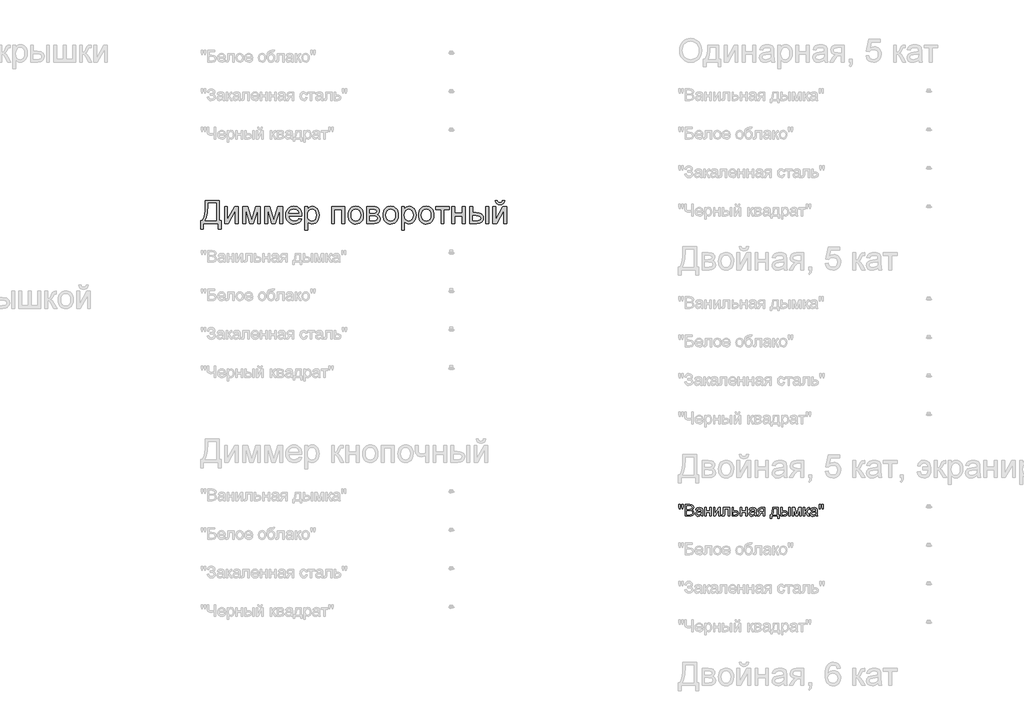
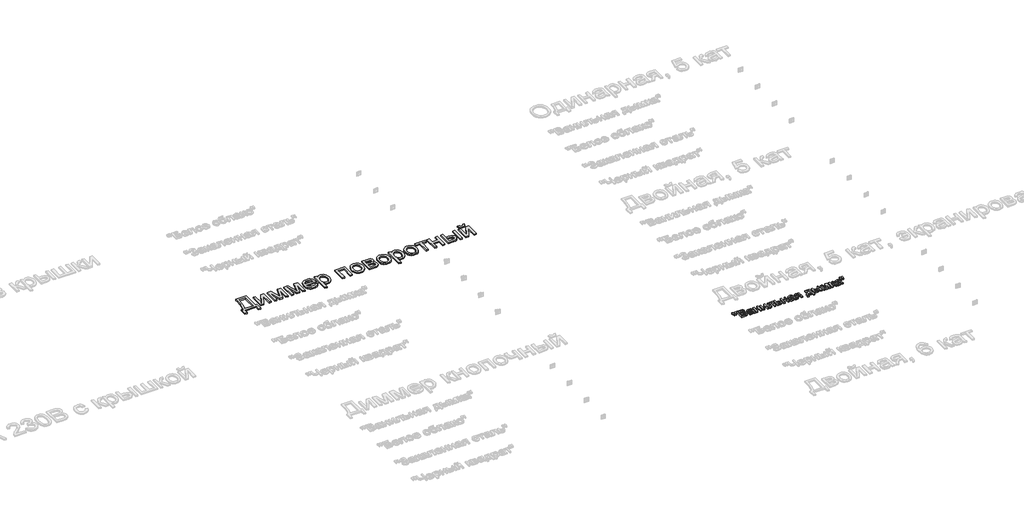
# One storey, part 159 of 168: 2 proxies.
"""IFC4 building model written with IfcOpenShell, lengths in millimetres."""

from ifc_helpers import new_model, si_unit, origin, origin_with_axes, place, context, project, spatial, polyline, outline, extrude, element, save

model = new_model("IFC4")

# Units and contexts
model_context = context("Model", 3, world=origin())
ifc_project = project(units=[si_unit("LENGTHUNIT", "METRE", prefix="MILLI")], contexts=[model_context])

# Site, building, storey
site = spatial("IfcSite", under=ifc_project)
building = spatial("IfcBuilding", under=site)
storey = spatial("IfcBuildingStorey", under=building, Name="Этаж 01", Elevation=0.0)

# Proxies
placement = place(None, origin())
element("IfcBuildingElementProxy", 1, Name="300 мм Arial 2", ObjectType="300 мм Arial 2", at=placement, inside=storey, context=model_context, shape_type="SweptSolid", body=[
    extrude(outline(polyline([(71127.3478389, -7847.0367511), (71306.2856413, -7847.0367511), (71306.2856413, -8110.7345653), (71334.5389786, -8110.7345653), (71334.5389786, -8219.0390246), (71296.8678623, -8219.0390246), (71296.8678623, -8148.4056816), (71103.8033912, -8148.4056816), (71103.8033912, -8219.0390246), (71066.1322749, -8219.0390246), (71066.1322749, -8110.7345653), (71089.6767226, -8110.7345653), (71106.157836, -8076.5629264), (71117.9300598, -8028.4945452), (71124.9933941, -7966.5294217), (71127.3478389, -7890.6675557), (71127.3478389, -7847.0367511)]), holes=[polyline([(71268.614525, -7884.7078674), (71165.0189552, -7884.7078674), (71165.0189552, -7899.8646056), (71157.3670097, -8003.0922935), (71146.0362442, -8062.744359), (71127.3478389, -8110.7345653), (71268.614525, -8110.7345653), (71268.614525, -7884.7078674)])]), origin_with_axes(), (0.0, 0.0, 1.0), 20.0),
    extrude(outline(polyline([(71376.9189844, -7927.0878733), (71414.5901007, -7927.0878733), (71414.5901007, -8095.8721327), (71507.1492107, -7927.0878733), (71555.8567869, -7927.0878733), (71555.8567869, -8148.4056816), (71518.1856706, -8148.4056816), (71518.1856706, -7980.6514918), (71426.2151718, -8148.4056816), (71376.9189844, -8148.4056816), (71376.9189844, -7927.0878733)])), origin_with_axes(), (0.0, 0.0, 1.0), 20.0),
    extrude(outline(polyline([(71612.3634613, -7927.0878733), (71677.1842689, -7927.0878733), (71727.1426438, -8104.2598421), (71781.0005679, -7927.0878733), (71843.0990487, -7927.0878733), (71843.0990487, -8148.4056816), (71805.4279324, -8148.4056816), (71805.4279324, -7970.2036431), (71751.2757027, -8148.4056816), (71701.8323626, -8148.4056816), (71650.0345776, -7961.6687808), (71650.0345776, -8148.4056816), (71612.3634613, -8148.4056816), (71612.3634613, -7927.0878733)])), origin_with_axes(), (0.0, 0.0, 1.0), 20.0),
    extrude(outline(polyline([(71899.6057232, -7927.0878733), (71964.4265307, -7927.0878733), (72014.3849057, -8104.2598421), (72068.2428298, -7927.0878733), (72130.3413105, -7927.0878733), (72130.3413105, -8148.4056816), (72092.6701942, -8148.4056816), (72092.6701942, -7970.2036431), (72038.5179645, -8148.4056816), (71989.0746244, -8148.4056816), (71937.2768395, -7961.6687808), (71937.2768395, -8148.4056816), (71899.6057232, -8148.4056816), (71899.6057232, -7927.0878733)])), origin_with_axes(), (0.0, 0.0, 1.0), 20.0),
    extrude(outline(polyline([(72341.7998814, -8082.481228), (72378.7352337, -8087.1901176), (72365.4271025, -8115.0203905), (72344.1911143, -8135.8241173), (72315.5055158, -8148.7919577), (72279.8485534, -8153.1145711), (72256.4742511, -8151.2498692), (72235.6475317, -8145.6557637), (72217.368395, -8136.3322543), (72201.6368412, -8123.2793413), (72188.9862991, -8106.860308), (72179.9501976, -8087.4384379), (72174.5285367, -8065.013731), (72172.7213164, -8039.5861874), (72174.5469308, -8013.2964203), (72180.023774, -7990.1244531), (72189.151846, -7970.0702859), (72201.9311468, -7953.1339185), (72217.6213139, -7939.6786346), (72235.4819848, -7930.0677174), (72255.5131594, -7924.3011672), (72277.7148378, -7922.3789837), (72299.2014456, -7924.2965686), (72318.6325127, -7930.0493233), (72336.0080392, -7939.6372478), (72351.328025, -7953.0603421), (72363.8337136, -7969.9599213), (72372.7663483, -7989.9773003), (72378.1259291, -8013.1124793), (72379.9124561, -8039.3654582), (72379.6917269, -8049.5190013), (72210.3924327, -8049.5190013), (72216.9131411, -8077.7171562), (72232.0606822, -8098.4473066), (72253.9220698, -8111.1944178), (72280.5843174, -8115.4434548), (72300.6338861, -8113.4752861), (72317.5196697, -8107.5707801), (72331.2416681, -8097.3620547), (72341.7998814, -8082.481228)]), holes=[polyline([(72210.3924327, -8011.847885), (72342.2413398, -8011.847885), (72337.1461741, -7991.945469), (72327.158178, -7977.7084358), (72305.1956228, -7964.464684), (72277.567685, -7960.0501), (72252.1746303, -7963.5725701), (72231.1777654, -7974.1399805), (72216.5820473, -7990.6118968), (72210.3924327, -8011.847885)])]), origin_with_axes(), (0.0, 0.0, 1.0), 20.0),
    extrude(outline(polyline([(72417.5835724, -8233.1656933), (72417.5835724, -7927.0878733), (72455.2546887, -7927.0878733), (72455.2546887, -7964.0232256), (72467.5419473, -7945.8038698), (72481.3007339, -7932.7900442), (72497.3403889, -7924.9817488), (72516.4702527, -7922.3789837), (72541.9460808, -7926.0210155), (72564.2213356, -7936.9471107), (72582.357918, -7954.4950819), (72595.4177288, -7978.0027414), (72603.3087976, -8005.7594379), (72605.9391539, -8036.0545202), (72602.9685068, -8068.271786), (72594.0565655, -8097.0861432), (72579.4884384, -8121.0352611), (72559.5492343, -8138.6568087), (72536.3266834, -8149.5001305), (72511.9085159, -8153.1145711), (72494.590471, -8150.695747), (72479.1302302, -8143.4392746), (72465.8956754, -8132.4855882), (72455.2546887, -8118.975122), (72455.2546887, -8233.1656933), (72417.5835724, -8233.1656933)]), holes=[polyline([(72455.2546887, -8039.512611), (72459.3289818, -8073.2841782), (72471.5518611, -8096.9022022), (72489.5872759, -8110.8081417), (72511.0991755, -8115.4434548), (72532.9605631, -8110.6425948), (72551.4558304, -8096.2400147), (72564.0649858, -8071.7574679), (72568.2680376, -8036.7167078), (72564.1661533, -8003.1290817), (72551.8605006, -7979.1799638), (72533.8526769, -7964.832566), (72512.6442799, -7960.0501), (72491.3531095, -7965.1360686), (72472.655507, -7980.3939744), (72459.6048933, -8005.3455707), (72455.2546887, -8039.512611)])]), origin_with_axes(), (0.0, 0.0, 1.0), 20.0),
    extrude(outline(polyline([(72766.0413982, -7927.0878733), (72935.5614216, -7927.0878733), (72935.5614216, -8148.4056816), (72897.8903053, -8148.4056816), (72897.8903053, -7964.7589896), (72803.7125145, -7964.7589896), (72803.7125145, -8148.4056816), (72766.0413982, -8148.4056816), (72766.0413982, -7927.0878733)])), origin_with_axes(), (0.0, 0.0, 1.0), 20.0),
    extrude(outline(polyline([(72982.650317, -8037.7467774), (72984.6874635, -8009.0841715), (72990.7989032, -7984.385494), (73000.9846359, -7963.6507451), (73015.2446617, -7946.8799246), (73029.6012566, -7936.160763), (73045.4477735, -7928.504219), (73062.7842126, -7923.9102925), (73081.6105737, -7922.3789837), (73102.3936071, -7924.2436856), (73121.1854793, -7929.8377912), (73137.9861902, -7939.1613005), (73152.7957397, -7952.2142135), (73164.8829625, -7968.5550719), (73173.5166931, -7987.7424172), (73178.6969315, -8009.7762495), (73180.4236776, -8034.6565687), (73177.370257, -8072.7139611), (73168.2099953, -8101.6846682), (73153.209607, -8123.3805088), (73132.6358064, -8139.6133019), (73108.1992449, -8149.7392538), (73081.6105737, -8153.1145711), (73060.5240376, -8151.256767), (73041.5574214, -8145.6833548), (73024.7107253, -8136.3943344), (73009.9839492, -8123.3897059), (72998.0254851, -8106.8901984), (72989.483725, -8087.1165412), (72984.358669, -8064.0687342), (72982.650317, -8037.7467774)]), holes=[polyline([(73020.3214333, -8037.673201), (73024.6808349, -8071.7666649), (73037.7590398, -8096.0560737), (73057.4407266, -8110.5966095), (73081.6105737, -8115.4434548), (73105.6700562, -8110.5690184), (73125.3149547, -8095.9457091), (73138.3931596, -8071.3344036), (73142.7525613, -8036.4959786), (73138.3655685, -8003.3957961), (73125.2045901, -7979.4374812), (73105.5321004, -7964.8969453), (73081.6105737, -7960.0501), (73057.4407266, -7964.8785512), (73037.7590398, -7979.3639048), (73024.6808349, -8003.5981312), (73020.3214333, -8037.673201)])]), origin_with_axes(), (0.0, 0.0, 1.0), 20.0),
    extrude(outline(polyline([(73222.8036834, -7927.0878733), (73305.7978615, -7927.0878733), (73332.4785032, -7928.3478691), (73351.3048643, -7932.1278566), (73365.1556214, -7939.2647673), (73376.9094512, -7950.5955328), (73384.9384757, -7965.3567978), (73387.6148173, -7982.7852073), (73385.9961365, -7996.8291025), (73381.1400941, -8008.9416172), (73373.0282961, -8019.1779337), (73361.6423484, -8027.5932344), (73375.585076, -8035.4199238), (73386.9526297, -8048.0106851), (73394.5126047, -8064.3722368), (73397.0325963, -8083.5112976), (73390.6498437, -8112.2244873), (73375.4747114, -8132.439603), (73351.4520171, -8144.4141619), (73318.5265786, -8148.4056816), (73222.8036834, -8148.4056816), (73222.8036834, -7927.0878733)]), holes=[polyline([(73260.4747997, -8011.847885), (73297.7044576, -8011.847885), (73328.4226042, -8009.9348986), (73343.3586132, -8002.2829531), (73348.297429, -7995.9553828), (73349.9437009, -7988.4505901), (73347.0558273, -7977.2117951), (73338.3922063, -7969.9829139), (73322.7388274, -7966.0649707), (73298.88168, -7964.7589896), (73260.4747997, -7964.7589896), (73260.4747997, -8011.847885)]), polyline([(73260.4747997, -8110.7345653), (73306.6807783, -8110.7345653), (73331.8623009, -8109.033111), (73347.6628326, -8103.9287484), (73356.1425126, -8094.648925), (73359.36148, -8080.4210889), (73357.7519963, -8070.9941127), (73352.9235451, -8062.2845065), (73345.5107229, -8055.4694925), (73336.1481261, -8051.7262932), (73303.0019584, -8049.5190013), (73260.4747997, -8049.5190013), (73260.4747997, -8110.7345653)])]), origin_with_axes(), (0.0, 0.0, 1.0), 20.0),
    extrude(outline(polyline([(73434.7037126, -8037.7467774), (73436.7408592, -8009.0841715), (73442.8522988, -7984.385494), (73453.0380316, -7963.6507451), (73467.2980574, -7946.8799246), (73481.6546523, -7936.160763), (73497.5011692, -7928.504219), (73514.8376082, -7923.9102925), (73533.6639693, -7922.3789837), (73554.4470028, -7924.2436856), (73573.238875, -7929.8377912), (73590.0395858, -7939.1613005), (73604.8491354, -7952.2142135), (73616.9363582, -7968.5550719), (73625.5700888, -7987.7424172), (73630.7503271, -8009.7762495), (73632.4770732, -8034.6565687), (73629.4236527, -8072.7139611), (73620.263391, -8101.6846682), (73605.2630027, -8123.3805088), (73584.6892021, -8139.6133019), (73560.2526405, -8149.7392538), (73533.6639693, -8153.1145711), (73512.5774332, -8151.256767), (73493.6108171, -8145.6833548), (73476.764121, -8136.3943344), (73462.0373449, -8123.3897059), (73450.0788808, -8106.8901984), (73441.5371207, -8087.1165412), (73436.4120647, -8064.0687342), (73434.7037126, -8037.7467774)]), holes=[polyline([(73472.3748289, -8037.673201), (73476.7342306, -8071.7666649), (73489.8124355, -8096.0560737), (73509.4941223, -8110.5966095), (73533.6639693, -8115.4434548), (73557.7234518, -8110.5690184), (73577.3683504, -8095.9457091), (73590.4465553, -8071.3344036), (73594.8059569, -8036.4959786), (73590.4189641, -8003.3957961), (73577.2579858, -7979.4374812), (73557.5854961, -7964.8969453), (73533.6639693, -7960.0501), (73509.4941223, -7964.8785512), (73489.8124355, -7979.3639048), (73476.7342306, -8003.5981312), (73472.3748289, -8037.673201)])]), origin_with_axes(), (0.0, 0.0, 1.0), 20.0),
    extrude(outline(polyline([(73674.8570791, -8233.1656933), (73674.8570791, -7927.0878733), (73712.5281954, -7927.0878733), (73712.5281954, -7964.0232256), (73724.815454, -7945.8038698), (73738.5742407, -7932.7900442), (73754.6138956, -7924.9817488), (73773.7437594, -7922.3789837), (73799.2195876, -7926.0210155), (73821.4948424, -7936.9471107), (73839.6314247, -7954.4950819), (73852.6912356, -7978.0027414), (73860.5823044, -8005.7594379), (73863.2126606, -8036.0545202), (73860.2420135, -8068.271786), (73851.3300722, -8097.0861432), (73836.7619452, -8121.0352611), (73816.822741, -8138.6568087), (73793.6001901, -8149.5001305), (73769.1820227, -8153.1145711), (73751.8639777, -8150.695747), (73736.4037369, -8143.4392746), (73723.1691821, -8132.4855882), (73712.5281954, -8118.975122), (73712.5281954, -8233.1656933), (73674.8570791, -8233.1656933)]), holes=[polyline([(73712.5281954, -8039.512611), (73716.6024885, -8073.2841782), (73728.8253678, -8096.9022022), (73746.8607826, -8110.8081417), (73768.3726823, -8115.4434548), (73790.2340698, -8110.6425948), (73808.7293371, -8096.2400147), (73821.3384925, -8071.7574679), (73825.5415443, -8036.7167078), (73821.4396601, -8003.1290817), (73809.1340073, -7979.1799638), (73791.1261837, -7964.832566), (73769.9177866, -7960.0501), (73748.6266162, -7965.1360686), (73729.9290138, -7980.3939744), (73716.8784, -8005.3455707), (73712.5281954, -8039.512611)])]), origin_with_axes(), (0.0, 0.0, 1.0), 20.0),
    extrude(outline(polyline([(73896.1748874, -8037.7467774), (73898.2120339, -8009.0841715), (73904.3234736, -7984.385494), (73914.5092063, -7963.6507451), (73928.7692322, -7946.8799246), (73943.125827, -7936.160763), (73958.972344, -7928.504219), (73976.308783, -7923.9102925), (73995.1351441, -7922.3789837), (74015.9181776, -7924.2436856), (74034.7100497, -7929.8377912), (74051.5107606, -7939.1613005), (74066.3203102, -7952.2142135), (74078.407533, -7968.5550719), (74087.0412635, -7987.7424172), (74092.2215019, -8009.7762495), (74093.948248, -8034.6565687), (74090.8948274, -8072.7139611), (74081.7345658, -8101.6846682), (74066.7341774, -8123.3805088), (74046.1603768, -8139.6133019), (74021.7238153, -8149.7392538), (73995.1351441, -8153.1145711), (73974.048608, -8151.256767), (73955.0819919, -8145.6833548), (73938.2352957, -8136.3943344), (73923.5085196, -8123.3897059), (73911.5500555, -8106.8901984), (73903.0082954, -8087.1165412), (73897.8832394, -8064.0687342), (73896.1748874, -8037.7467774)]), holes=[polyline([(73933.8460037, -8037.673201), (73938.2054053, -8071.7666649), (73951.2836103, -8096.0560737), (73970.965297, -8110.5966095), (73995.1351441, -8115.4434548), (74019.1946266, -8110.5690184), (74038.8395251, -8095.9457091), (74051.91773, -8071.3344036), (74056.2771317, -8036.4959786), (74051.8901389, -8003.3957961), (74038.7291605, -7979.4374812), (74019.0566708, -7964.8969453), (73995.1351441, -7960.0501), (73970.965297, -7964.8785512), (73951.2836103, -7979.3639048), (73938.2054053, -8003.5981312), (73933.8460037, -8037.673201)])]), origin_with_axes(), (0.0, 0.0, 1.0), 20.0),
    extrude(outline(polyline([(74117.4926957, -7927.0878733), (74296.4304981, -7927.0878733), (74296.4304981, -7964.7589896), (74225.7971551, -7964.7589896), (74225.7971551, -8148.4056816), (74188.1260388, -8148.4056816), (74188.1260388, -7964.7589896), (74117.4926957, -7964.7589896), (74117.4926957, -7927.0878733)])), origin_with_axes(), (0.0, 0.0, 1.0), 20.0),
    extrude(outline(polyline([(74329.3927249, -7927.0878733), (74367.0638412, -7927.0878733), (74367.0638412, -8011.847885), (74465.9505215, -8011.847885), (74465.9505215, -7927.0878733), (74503.6216378, -7927.0878733), (74503.6216378, -8148.4056816), (74465.9505215, -8148.4056816), (74465.9505215, -8049.5190013), (74367.0638412, -8049.5190013), (74367.0638412, -8148.4056816), (74329.3927249, -8148.4056816), (74329.3927249, -7927.0878733)])), origin_with_axes(), (0.0, 0.0, 1.0), 20.0),
    extrude(outline(polyline([(74767.319452, -7927.0878733), (74804.9905683, -7927.0878733), (74804.9905683, -8148.4056816), (74767.319452, -8148.4056816), (74767.319452, -7927.0878733)])), origin_with_axes(), (0.0, 0.0, 1.0), 20.0),
    extrude(outline(polyline([(74560.1283123, -7927.0878733), (74597.7994286, -7927.0878733), (74597.7994286, -8007.1389954), (74644.3732892, -8007.1389954), (74684.6287765, -8011.857082), (74700.8454747, -8017.7546902), (74714.4548093, -8026.0113418), (74725.2222554, -8036.3419281), (74732.9132884, -8048.4613405), (74737.5279081, -8062.3695792), (74739.0661147, -8078.0666441), (74733.9065698, -8105.0231973), (74718.4279348, -8127.7675016), (74706.5660397, -8136.7967054), (74691.6185344, -8143.2461366), (74652.4666931, -8148.4056816), (74560.1283123, -8148.4056816), (74560.1283123, -7927.0878733)]), holes=[polyline([(74597.7994286, -8110.7345653), (74636.5006145, -8110.7345653), (74666.5013912, -8108.7571995), (74686.4589894, -8102.8251024), (74697.6609962, -8092.6991504), (74701.3949984, -8078.1402205), (74698.6266864, -8065.8345678), (74690.3217504, -8054.9636548), (74672.5622471, -8047.3484975), (74641.4302332, -8044.8101117), (74597.7994286, -8044.8101117), (74597.7994286, -8110.7345653)])]), origin_with_axes(), (0.0, 0.0, 1.0), 20.0),
    extrude(outline(polyline([(74861.4972427, -7927.0878733), (74899.168359, -7927.0878733), (74899.168359, -8095.8721327), (74991.727469, -7927.0878733), (75040.4350452, -7927.0878733), (75040.4350452, -8148.4056816), (75002.7639289, -8148.4056816), (75002.7639289, -7980.6514918), (74910.7934301, -8148.4056816), (74861.4972427, -8148.4056816), (74861.4972427, -7927.0878733)])), origin_with_axes(), (0.0, 0.0, 1.0), 20.0),
    extrude(outline(polyline([(74983.9283707, -7847.0367511), (75012.181708, -7847.0367511), (75006.102458, -7871.160613), (74993.8979728, -7888.9385104), (74976.1200754, -7899.8921968), (74953.3205887, -7903.5434256), (74928.5805246, -7899.9197879), (74909.3954785, -7889.048875), (74896.2804854, -7871.2985687), (74889.75058, -7847.0367511), (74918.0039172, -7847.0367511), (74921.9770427, -7859.4435714), (74928.5989187, -7868.2635422), (74937.9063331, -7873.5334518), (74949.9360744, -7875.2900883), (74963.51092, -7873.5886341), (74973.3333693, -7868.4842714), (74979.9552452, -7859.7194829), (74983.9283707, -7847.0367511)])), origin_with_axes(), (0.0, 0.0, 1.0), 20.0),
])
element("IfcBuildingElementProxy", 2, Name="150", ObjectType="150", at=placement, inside=storey, context=model_context, shape_type="SweptSolid", body=[
    extrude(outline(polyline([(77280.1485789, -11851.873446), (77275.550054, -11822.7739802), (77275.550054, -11797.7212163), (77294.3856121, -11797.7212163), (77294.3856121, -11822.7739802), (77290.2653338, -11851.873446), (77280.1485789, -11851.873446)])), origin_with_axes(), (0.0, 0.0, 1.0), 20.0),
    extrude(outline(polyline([(77317.7093306, -11851.873446), (77313.2211703, -11822.7739802), (77313.2211703, -11797.7212163), (77332.0567284, -11797.7212163), (77332.0567284, -11822.7739802), (77327.6421445, -11851.873446), (77317.7093306, -11851.873446)])), origin_with_axes(), (0.0, 0.0, 1.0), 20.0),
    extrude(outline(polyline([(77357.9556209, -11948.4056816), (77357.9556209, -11797.7212163), (77415.4555767, -11797.7212163), (77443.6169435, -11802.1541944), (77453.0807078, -11807.7781904), (77460.2452096, -11815.7842223), (77466.2600803, -11835.0612389), (77461.2017028, -11852.6643923), (77445.9162059, -11866.0001146), (77456.5893823, -11871.5735269), (77464.4758526, -11880.0532069), (77469.3456905, -11890.8781346), (77470.9689698, -11903.48729), (77466.5359918, -11923.7391938), (77455.5547142, -11938.160168), (77439.1655713, -11945.8121135), (77415.0141183, -11948.4056816), (77357.9556209, -11948.4056816)]), holes=[polyline([(77376.791179, -11858.9367803), (77411.1881456, -11858.9367803), (77431.2745025, -11857.3180996), (77443.3594261, -11850.3467358), (77447.4245221, -11838.0778712), (77443.6353376, -11825.7906126), (77432.7828187, -11818.5249432), (77408.5761834, -11816.5567745), (77376.791179, -11816.5567745), (77376.791179, -11858.9367803)]), polyline([(77376.791179, -11929.5701234), (77415.4187885, -11929.5701234), (77429.3983043, -11928.8343594), (77441.2257105, -11924.7324752), (77449.061597, -11916.3631598), (77452.1334117, -11903.671231), (77448.5281681, -11889.0295275), (77436.8479148, -11880.2923302), (77413.5793786, -11877.7723385), (77376.791179, -11877.7723385), (77376.791179, -11929.5701234)])]), origin_with_axes(), (0.0, 0.0, 1.0), 20.0),
    extrude(outline(polyline([(77565.1467606, -11934.279013), (77546.8814195, -11947.0445182), (77526.7030921, -11950.7601263), (77510.9623412, -11948.5252432), (77499.3510657, -11941.8205939), (77492.1911624, -11931.6394596), (77489.804528, -11918.975122), (77493.4097715, -11904.0759012), (77502.8827329, -11893.2601705), (77516.0713024, -11887.079753), (77532.3684748, -11884.2470616), (77565.036396, -11877.7723385), (77565.1467606, -11873.5784838), (77563.8499765, -11865.1723802), (77559.9596244, -11859.6725443), (77551.2592153, -11855.5890542), (77539.1375035, -11854.2278908), (77520.0812162, -11857.8515285), (77510.9945309, -11870.7090042), (77492.1589727, -11868.3545594), (77500.3075589, -11849.9604597), (77516.7150959, -11839.1815172), (77541.5655247, -11835.3923327), (77564.3926025, -11838.7400588), (77577.2868664, -11847.1461624), (77583.0626137, -11859.9300617), (77583.9823187, -11876.4111751), (77583.9823187, -11899.8452582), (77584.9388119, -11932.5683617), (77588.6912083, -11948.4056816), (77569.8556501, -11948.4056816), (77565.1467606, -11934.279013)]), holes=[polyline([(77565.1467606, -11896.6078966), (77534.7597078, -11902.383644), (77518.5545059, -11905.4370645), (77511.2152601, -11910.4034715), (77508.6400861, -11917.6507468), (77514.2502865, -11927.841078), (77530.7130058, -11931.9245682), (77549.7692932, -11927.4180137), (77562.0565518, -11916.5103126), (77565.036396, -11901.9421856), (77565.1467606, -11896.6078966)])]), origin_with_axes(), (0.0, 0.0, 1.0), 20.0),
    extrude(outline(polyline([(77609.8812112, -11837.7467774), (77628.7167693, -11837.7467774), (77628.7167693, -11880.1267833), (77678.1601095, -11880.1267833), (77678.1601095, -11837.7467774), (77696.9956676, -11837.7467774), (77696.9956676, -11948.4056816), (77678.1601095, -11948.4056816), (77678.1601095, -11898.9623414), (77628.7167693, -11898.9623414), (77628.7167693, -11948.4056816), (77609.8812112, -11948.4056816), (77609.8812112, -11837.7467774)])), origin_with_axes(), (0.0, 0.0, 1.0), 20.0),
    extrude(outline(polyline([(77725.2490049, -11837.7467774), (77744.084563, -11837.7467774), (77744.084563, -11922.1389071), (77790.364118, -11837.7467774), (77814.7179061, -11837.7467774), (77814.7179061, -11948.4056816), (77795.8823479, -11948.4056816), (77795.8823479, -11864.5285867), (77749.8970985, -11948.4056816), (77725.2490049, -11948.4056816), (77725.2490049, -11837.7467774)])), origin_with_axes(), (0.0, 0.0, 1.0), 20.0),
    extrude(outline(polyline([(77852.3890224, -11837.7467774), (77937.1490341, -11837.7467774), (77937.1490341, -11948.295317), (77918.3134759, -11948.295317), (77918.3134759, -11856.5823356), (77871.2245806, -11856.5823356), (77871.2245806, -11909.3734019), (77869.9553877, -11933.72719), (77862.9840239, -11944.0094917), (77846.5029105, -11948.4056816), (77831.1990195, -11947.4491884), (77831.1990195, -11929.5701234), (77839.6235172, -11929.5701234), (77848.1399854, -11928.4112951), (77851.5428938, -11924.7324752), (77852.3890224, -11908.3065441), (77852.3890224, -11837.7467774)])), origin_with_axes(), (0.0, 0.0, 1.0), 20.0),
    extrude(outline(polyline([(77965.4023713, -11837.7467774), (77984.2379295, -11837.7467774), (77984.2379295, -11877.7723385), (78005.9429672, -11877.7723385), (78024.7601312, -11880.1313818), (78038.6844648, -11887.2085117), (78047.2929034, -11898.433511), (78050.162383, -11913.2361628), (78047.7205663, -11926.7144394), (78040.395116, -11938.0865916), (78027.6985887, -11945.8259091), (78009.1435405, -11948.4056816), (77965.4023713, -11948.4056816), (77965.4023713, -11837.7467774)]), holes=[polyline([(77984.2379295, -11929.5701234), (78001.8226888, -11929.5701234), (78024.539402, -11925.615392), (78029.6299692, -11920.552416), (78031.3268249, -11913.272951), (78026.3052356, -11901.6846682), (78018.2348244, -11897.8770895), (78004.066769, -11896.6078966), (77984.2379295, -11896.6078966), (77984.2379295, -11929.5701234)])]), origin_with_axes(), (0.0, 0.0, 1.0), 20.0),
    extrude(outline(polyline([(78073.7068307, -11837.7467774), (78092.5423889, -11837.7467774), (78092.5423889, -11880.1267833), (78141.985729, -11880.1267833), (78141.985729, -11837.7467774), (78160.8212872, -11837.7467774), (78160.8212872, -11948.4056816), (78141.985729, -11948.4056816), (78141.985729, -11898.9623414), (78092.5423889, -11898.9623414), (78092.5423889, -11948.4056816), (78073.7068307, -11948.4056816), (78073.7068307, -11837.7467774)])), origin_with_axes(), (0.0, 0.0, 1.0), 20.0),
    extrude(outline(polyline([(78259.7079675, -11934.279013), (78241.4426264, -11947.0445182), (78221.264299, -11950.7601263), (78205.5235481, -11948.5252432), (78193.9122726, -11941.8205939), (78186.7523693, -11931.6394596), (78184.3657349, -11918.975122), (78187.9709784, -11904.0759012), (78197.4439398, -11893.2601705), (78210.6325093, -11887.079753), (78226.9296817, -11884.2470616), (78259.5976029, -11877.7723385), (78259.7079675, -11873.5784838), (78258.4111834, -11865.1723802), (78254.5208313, -11859.6725443), (78245.8204221, -11855.5890542), (78233.6987104, -11854.2278908), (78214.6424231, -11857.8515285), (78205.5557378, -11870.7090042), (78186.7201796, -11868.3545594), (78194.8687658, -11849.9604597), (78211.2763028, -11839.1815172), (78236.1267316, -11835.3923327), (78258.9538094, -11838.7400588), (78271.8480733, -11847.1461624), (78277.6238206, -11859.9300617), (78278.5435256, -11876.4111751), (78278.5435256, -11899.8452582), (78279.5000188, -11932.5683617), (78283.2524152, -11948.4056816), (78264.416857, -11948.4056816), (78259.7079675, -11934.279013)]), holes=[polyline([(78259.7079675, -11896.6078966), (78229.3209147, -11902.383644), (78213.1157128, -11905.4370645), (78205.776467, -11910.4034715), (78203.201293, -11917.6507468), (78208.8114934, -11927.841078), (78225.2742127, -11931.9245682), (78244.3305001, -11927.4180137), (78256.6177587, -11916.5103126), (78259.5976029, -11901.9421856), (78259.7079675, -11896.6078966)])]), origin_with_axes(), (0.0, 0.0, 1.0), 20.0),
    extrude(outline(polyline([(78389.2024298, -11837.7467774), (78389.2024298, -11948.4056816), (78370.3668716, -11948.4056816), (78370.3668716, -11906.0256757), (78360.1029639, -11906.0256757), (78346.1234481, -11908.4169087), (78332.9900609, -11924.4933519), (78317.9804755, -11948.4056816), (78296.2018614, -11948.4056816), (78315.1109959, -11918.1657816), (78323.4619172, -11907.3132627), (78331.1506509, -11902.4940086), (78318.2747811, -11898.5484742), (78309.224884, -11891.0528785), (78303.872201, -11881.0832765), (78302.0879733, -11869.7157228), (78304.5251915, -11856.8214589), (78311.8368462, -11846.6127335), (78323.7654199, -11839.9632664), (78340.0533952, -11837.7467774), (78389.2024298, -11837.7467774)]), holes=[polyline([(78370.3668716, -11856.5823356), (78345.5348369, -11856.5823356), (78332.7095509, -11857.672186), (78325.4300859, -11860.9417372), (78320.9235315, -11871.1504626), (78322.583599, -11878.32876), (78327.5638015, -11883.3089625), (78351.0898551, -11887.1901176), (78370.3668716, -11887.1901176), (78370.3668716, -11856.5823356)])]), origin_with_axes(), (0.0, 0.0, 1.0), 20.0),
    extrude(outline(polyline([(78492.7979996, -11837.7467774), (78563.4313427, -11837.7467774), (78563.4313427, -11929.5701234), (78577.5580113, -11929.5701234), (78577.5580113, -11979.0134636), (78558.7224531, -11979.0134636), (78558.7224531, -11948.4056816), (78481.0257758, -11948.4056816), (78481.0257758, -11979.0134636), (78462.1902176, -11979.0134636), (78462.1902176, -11929.5701234), (78473.9624415, -11929.5701234), (78482.5202964, -11914.105284), (78488.5121744, -11893.6464466), (78492.7979996, -11837.7467774)]), holes=[polyline([(78509.279113, -11856.5823356), (78504.864529, -11899.4957703), (78495.1524444, -11929.5701234), (78544.5957845, -11929.5701234), (78544.5957845, -11856.5823356), (78509.279113, -11856.5823356)])]), origin_with_axes(), (0.0, 0.0, 1.0), 20.0),
    extrude(outline(polyline([(78702.3435841, -11837.7467774), (78721.1791422, -11837.7467774), (78721.1791422, -11948.4056816), (78702.3435841, -11948.4056816), (78702.3435841, -11837.7467774)])), origin_with_axes(), (0.0, 0.0, 1.0), 20.0),
    extrude(outline(polyline([(78598.7480142, -11837.7467774), (78617.5835724, -11837.7467774), (78617.5835724, -11877.7723385), (78640.8705027, -11877.7723385), (78660.9982463, -11880.1313818), (78675.9112627, -11887.2085117), (78685.1405023, -11898.433511), (78688.2169154, -11913.2361628), (78685.637143, -11926.7144394), (78677.8978255, -11938.0865916), (78664.4931253, -11945.8259091), (78644.9172046, -11948.4056816), (78598.7480142, -11948.4056816), (78598.7480142, -11837.7467774)]), holes=[polyline([(78617.5835724, -11929.5701234), (78636.9341653, -11929.5701234), (78661.9133528, -11925.615392), (78667.5143562, -11920.552416), (78669.3813573, -11913.272951), (78663.8447333, -11901.6846682), (78654.9649816, -11897.8770895), (78639.3989747, -11896.6078966), (78617.5835724, -11896.6078966), (78617.5835724, -11929.5701234)])]), origin_with_axes(), (0.0, 0.0, 1.0), 20.0),
    extrude(outline(polyline([(78749.4324794, -11837.7467774), (78781.8428832, -11837.7467774), (78806.8220707, -11926.3327619), (78833.7510327, -11837.7467774), (78864.8002731, -11837.7467774), (78864.8002731, -11948.4056816), (78845.964715, -11948.4056816), (78845.964715, -11859.3046623), (78818.8886001, -11948.4056816), (78794.1669301, -11948.4056816), (78768.2680376, -11855.0372312), (78768.2680376, -11948.4056816), (78749.4324794, -11948.4056816), (78749.4324794, -11837.7467774)])), origin_with_axes(), (0.0, 0.0, 1.0), 20.0),
    extrude(outline(polyline([(78893.0536104, -11837.7467774), (78911.8891685, -11837.7467774), (78911.8891685, -11884.8356728), (78924.5075209, -11881.4511584), (78934.845005, -11861.7326835), (78943.4350496, -11844.7181412), (78951.0134187, -11839.1815172), (78964.7905994, -11837.7467774), (78968.395843, -11837.7467774), (78968.395843, -11856.6927002), (78963.3190714, -11856.5823356), (78954.1220216, -11858.5688983), (78947.6472984, -11870.9665216), (78940.0505352, -11884.3758203), (78929.4003515, -11890.9425139), (78941.2829399, -11898.2725627), (78952.9447992, -11913.7144094), (78973.1047325, -11948.4056816), (78951.6940004, -11948.4056816), (78931.9387373, -11914.4501734), (78922.0059234, -11900.0843815), (78911.8891685, -11896.6078966), (78911.8891685, -11948.4056816), (78893.0536104, -11948.4056816), (78893.0536104, -11837.7467774)])), origin_with_axes(), (0.0, 0.0, 1.0), 20.0),
    extrude(outline(polyline([(79055.5102994, -11934.279013), (79037.2449584, -11947.0445182), (79017.0666309, -11950.7601263), (79001.3258801, -11948.5252432), (78989.7146046, -11941.8205939), (78982.5547013, -11931.6394596), (78980.1680668, -11918.975122), (78983.7733104, -11904.0759012), (78993.2462717, -11893.2601705), (79006.4348413, -11887.079753), (79022.7320137, -11884.2470616), (79055.3999348, -11877.7723385), (79055.5102994, -11873.5784838), (79054.2135154, -11865.1723802), (79050.3231633, -11859.6725443), (79041.6227541, -11855.5890542), (79029.5010424, -11854.2278908), (79010.444755, -11857.8515285), (79001.3580697, -11870.7090042), (78982.5225116, -11868.3545594), (78990.6710978, -11849.9604597), (79007.0786348, -11839.1815172), (79031.9290635, -11835.3923327), (79054.7561413, -11838.7400588), (79067.6504053, -11847.1461624), (79073.4261526, -11859.9300617), (79074.3458576, -11876.4111751), (79074.3458576, -11899.8452582), (79075.3023508, -11932.5683617), (79079.0547471, -11948.4056816), (79060.219189, -11948.4056816), (79055.5102994, -11934.279013)]), holes=[polyline([(79055.5102994, -11896.6078966), (79025.1232466, -11902.383644), (79008.9180447, -11905.4370645), (79001.5787989, -11910.4034715), (78999.003625, -11917.6507468), (79004.6138254, -11927.841078), (79021.0765447, -11931.9245682), (79040.132832, -11927.4180137), (79052.4200907, -11916.5103126), (79055.3999348, -11901.9421856), (79055.5102994, -11896.6078966)])]), origin_with_axes(), (0.0, 0.0, 1.0), 20.0),
    extrude(outline(polyline([(79100.1343854, -11851.873446), (79095.5358605, -11822.7739802), (79095.5358605, -11797.7212163), (79114.3714187, -11797.7212163), (79114.3714187, -11822.7739802), (79110.2511403, -11851.873446), (79100.1343854, -11851.873446)])), origin_with_axes(), (0.0, 0.0, 1.0), 20.0),
    extrude(outline(polyline([(79137.6951372, -11851.873446), (79133.2069768, -11822.7739802), (79133.2069768, -11797.7212163), (79152.042535, -11797.7212163), (79152.042535, -11822.7739802), (79147.627951, -11851.873446), (79137.6951372, -11851.873446)])), origin_with_axes(), (0.0, 0.0, 1.0), 20.0),
])

save(model, "model.ifc")
